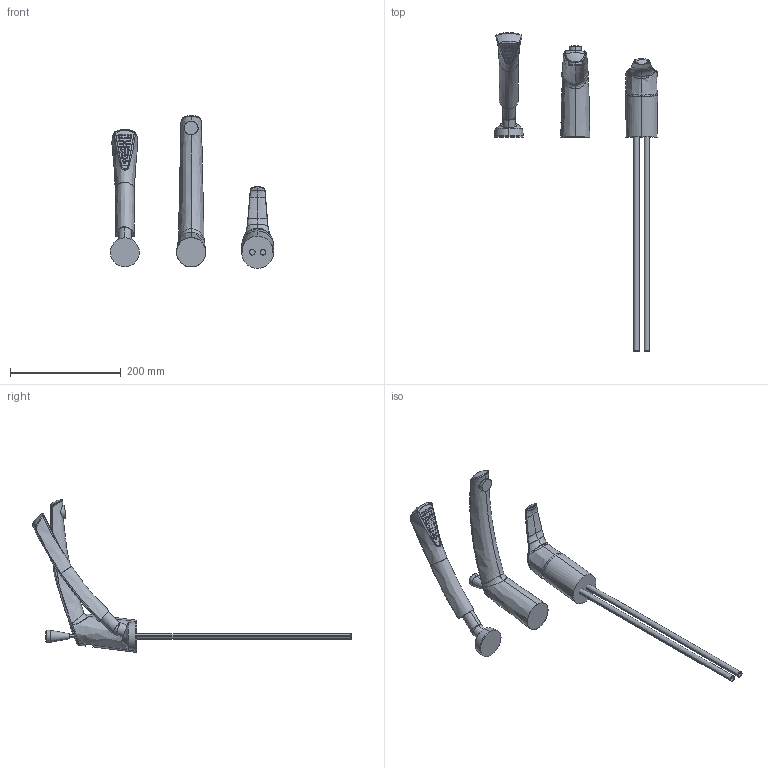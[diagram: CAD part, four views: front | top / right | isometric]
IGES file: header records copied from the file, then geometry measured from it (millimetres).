
Start section:  PTC IGES file: 67013_web.igs
Global section: file name: 67013_web.igs; native system: Creo Parametric by PTC Inc.; preprocessor: 2017380; author: jaj; organization: Unknown; date: 20180831.144803; units: millimetre
Bounding box: 295.2 x 576.31 x 276.4 mm (x, y, z)
Surface area: 178826.8 mm2 (no closed solid volume)
Topology: 0 solids, 0 shells, 171 faces, 996 edges, 1050 vertices
Faces by surface type: bspline 126, revolution 45
